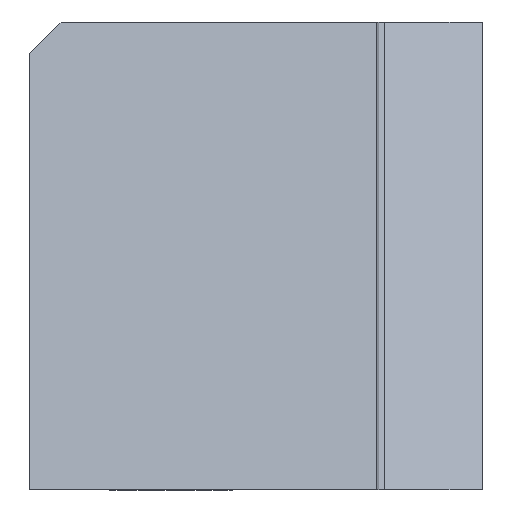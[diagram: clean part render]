
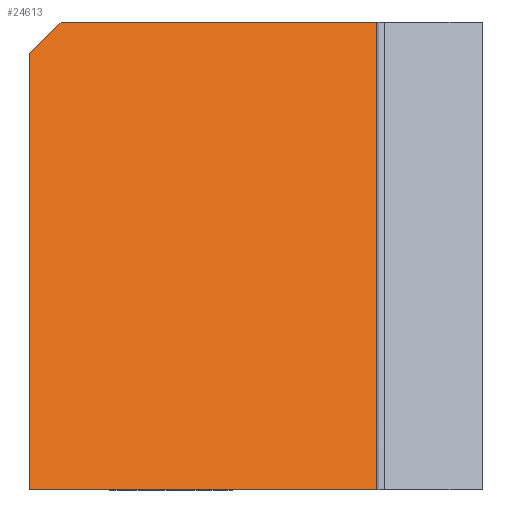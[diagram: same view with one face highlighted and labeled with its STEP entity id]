
A CAD part, left-side view. The second image highlights one B-rep face of the part: STEP entity #24613.
In plain terms, the highlighted planar face has unit normal (-0.943, 0, 0.334).
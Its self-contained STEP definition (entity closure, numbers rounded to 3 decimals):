
#2409=ORIENTED_EDGE('',*,*,#7783,.F.);
#2410=ORIENTED_EDGE('',*,*,#7784,.T.);
#2411=ORIENTED_EDGE('',*,*,#6440,.F.);
#2412=ORIENTED_EDGE('',*,*,#7785,.F.);
#2413=ORIENTED_EDGE('',*,*,#7180,.F.);
#6440=EDGE_CURVE('',#9127,#9128,#10894,.T.);
#7180=EDGE_CURVE('',#9866,#9868,#11391,.T.);
#7783=EDGE_CURVE('',#10470,#9866,#11794,.T.);
#7784=EDGE_CURVE('',#10470,#9128,#11795,.T.);
#7785=EDGE_CURVE('',#9868,#9127,#11796,.T.);
#9127=VERTEX_POINT('',#31307);
#9128=VERTEX_POINT('',#31308);
#9866=VERTEX_POINT('',#33941);
#9868=VERTEX_POINT('',#33944);
#10470=VERTEX_POINT('',#35150);
#10894=LINE('',#31306,#12979);
#11391=LINE('',#33943,#13476);
#11794=LINE('',#35149,#13879);
#11795=LINE('',#35151,#13880);
#11796=LINE('',#35152,#13881);
#12979=VECTOR('',#26647,1000.);
#13476=VECTOR('',#27166,1000.);
#13879=VECTOR('',#27971,1000.);
#13880=VECTOR('',#27972,1000.);
#13881=VECTOR('',#27973,1000.);
#15028=EDGE_LOOP('',(#2409,#2410,#2411,#2412,#2413));
#16113=FACE_BOUND('',#15028,.T.);
#17136=PLANE('',#25812);
#24613=ADVANCED_FACE('',(#16113),#17136,.T.);
#25812=AXIS2_PLACEMENT_3D('',#35148,#27969,#27970);
#26647=DIRECTION('',(0.,1.,0.));
#27166=DIRECTION('',(0.,-1.,0.));
#27969=DIRECTION('',(-0.942,0.,0.334));
#27970=DIRECTION('',(0.,1.,0.));
#27971=DIRECTION('',(0.243,-0.686,0.686));
#27972=DIRECTION('',(-0.334,0.,-0.942));
#27973=DIRECTION('',(-0.334,0.,-0.942));
#31306=CARTESIAN_POINT('',(-10.64,-22.25,-30.));
#31307=CARTESIAN_POINT('',(-10.64,-22.25,-30.));
#31308=CARTESIAN_POINT('',(-10.64,0.,-30.));
#33941=CARTESIAN_POINT('',(0.,-2.,0.));
#33943=CARTESIAN_POINT('',(0.,0.,0.));
#33944=CARTESIAN_POINT('',(0.,-22.25,0.));
#35148=CARTESIAN_POINT('',(0.,-22.25,0.));
#35149=CARTESIAN_POINT('',(1.596,-6.501,4.501));
#35150=CARTESIAN_POINT('',(-0.709,0.,-2.));
#35151=CARTESIAN_POINT('',(0.,0.,0.));
#35152=CARTESIAN_POINT('',(0.,-22.25,0.));
